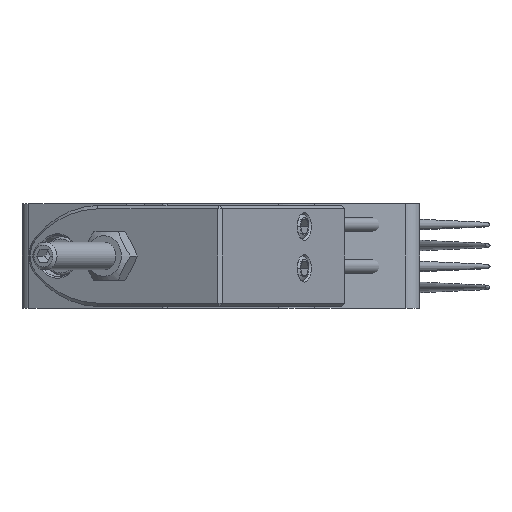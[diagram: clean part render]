
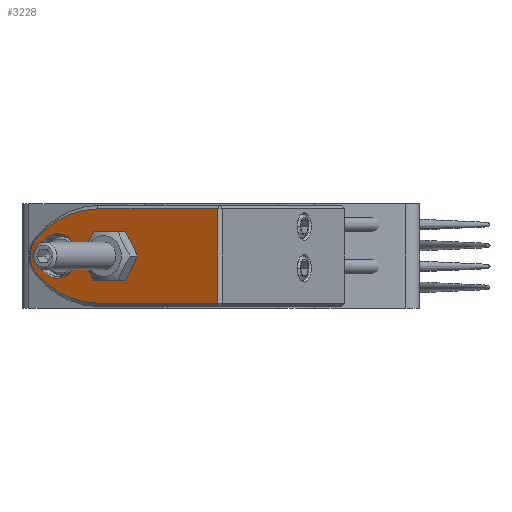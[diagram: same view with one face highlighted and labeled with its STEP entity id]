
A CAD part, left-side view. The second image highlights one B-rep face of the part: STEP entity #3228.
In plain terms, the highlighted planar face has unit normal (-0.866, 0.5, 0) as drawn and (0, -1, 0) by its records, which use the part's own axes.
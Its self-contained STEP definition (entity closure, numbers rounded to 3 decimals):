
#282=LINE('',#5456,#519);
#289=LINE('',#5476,#526);
#310=LINE('',#5512,#547);
#519=VECTOR('',#4343,10.);
#526=VECTOR('',#4366,10.);
#547=VECTOR('',#4409,10.);
#684=FACE_BOUND('',#1056,.T.);
#685=FACE_BOUND('',#1057,.T.);
#835=FACE_OUTER_BOUND('',#1055,.T.);
#1055=EDGE_LOOP('',(#2589,#2590,#2591,#2592,#2593,#2594));
#1056=EDGE_LOOP('',(#2595));
#1057=EDGE_LOOP('',(#2596));
#1221=CIRCLE('',#3623,14.32);
#1222=CIRCLE('',#3625,3.5);
#1223=CIRCLE('',#3627,14.32);
#1226=CIRCLE('',#3648,3.2);
#1227=CIRCLE('',#3654,2.9);
#1437=VERTEX_POINT('',#5441);
#1439=VERTEX_POINT('',#5454);
#1440=VERTEX_POINT('',#5458);
#1441=VERTEX_POINT('',#5462);
#1442=VERTEX_POINT('',#5466);
#1444=VERTEX_POINT('',#5475);
#1451=VERTEX_POINT('',#5524);
#1452=VERTEX_POINT('',#5535);
#1805=EDGE_CURVE('',#1439,#1437,#282,.T.);
#1806=EDGE_CURVE('',#1437,#1440,#1221,.T.);
#1808=EDGE_CURVE('',#1440,#1441,#1222,.T.);
#1811=EDGE_CURVE('',#1441,#1442,#1223,.T.);
#1815=EDGE_CURVE('',#1442,#1444,#289,.T.);
#1836=EDGE_CURVE('',#1444,#1439,#310,.T.);
#1841=EDGE_CURVE('',#1451,#1451,#1226,.T.);
#1846=EDGE_CURVE('',#1452,#1452,#1227,.T.);
#2589=ORIENTED_EDGE('',*,*,#1836,.F.);
#2590=ORIENTED_EDGE('',*,*,#1815,.F.);
#2591=ORIENTED_EDGE('',*,*,#1811,.F.);
#2592=ORIENTED_EDGE('',*,*,#1808,.F.);
#2593=ORIENTED_EDGE('',*,*,#1806,.F.);
#2594=ORIENTED_EDGE('',*,*,#1805,.F.);
#2595=ORIENTED_EDGE('',*,*,#1841,.F.);
#2596=ORIENTED_EDGE('',*,*,#1846,.T.);
#2871=PLANE('',#3653);
#3228=ADVANCED_FACE('',(#835,#684,#685),#2871,.T.);
#3623=AXIS2_PLACEMENT_3D('',#5459,#4346,#4347);
#3625=AXIS2_PLACEMENT_3D('',#5463,#4351,#4352);
#3627=AXIS2_PLACEMENT_3D('',#5468,#4357,#4358);
#3648=AXIS2_PLACEMENT_3D('',#5525,#4426,#4427);
#3653=AXIS2_PLACEMENT_3D('',#5534,#4440,#4441);
#3654=AXIS2_PLACEMENT_3D('',#5536,#4442,#4443);
#4343=DIRECTION('',(-1.,0.,0.));
#4346=DIRECTION('center_axis',(0.,1.,0.));
#4347=DIRECTION('ref_axis',(-0.86,0.,-0.511));
#4351=DIRECTION('center_axis',(0.,1.,0.));
#4352=DIRECTION('ref_axis',(-0.715,0.,0.699));
#4357=DIRECTION('center_axis',(0.,1.,0.));
#4358=DIRECTION('ref_axis',(0.017,0.,1.));
#4366=DIRECTION('',(1.,0.,0.));
#4409=DIRECTION('',(0.,0.,-1.));
#4426=DIRECTION('center_axis',(0.,-1.,0.));
#4427=DIRECTION('ref_axis',(-1.,0.,0.));
#4440=DIRECTION('center_axis',(0.,-1.,0.));
#4441=DIRECTION('ref_axis',(0.,0.,-1.));
#4442=DIRECTION('center_axis',(0.,1.,0.));
#4443=DIRECTION('ref_axis',(-1.,0.,0.));
#5441=CARTESIAN_POINT('',(2.85,3.5,-6.75));
#5454=CARTESIAN_POINT('',(22.861,3.5,-6.75));
#5456=CARTESIAN_POINT('',(17.368,3.5,-6.75));
#5458=CARTESIAN_POINT('',(-7.131,3.5,-2.448));
#5459=CARTESIAN_POINT('Origin',(3.103,3.5,7.567));
#5462=CARTESIAN_POINT('',(-7.131,3.5,2.448));
#5463=CARTESIAN_POINT('Origin',(-4.63,3.5,0.));
#5466=CARTESIAN_POINT('',(2.85,3.5,6.75));
#5468=CARTESIAN_POINT('Origin',(3.103,3.5,-7.567));
#5475=CARTESIAN_POINT('',(22.861,3.5,6.75));
#5476=CARTESIAN_POINT('',(17.368,3.5,6.75));
#5512=CARTESIAN_POINT('',(22.861,3.5,0.));
#5524=CARTESIAN_POINT('',(-0.439,3.5,0.));
#5525=CARTESIAN_POINT('Origin',(-3.639,3.5,0.));
#5534=CARTESIAN_POINT('Origin',(23.361,3.5,0.));
#5535=CARTESIAN_POINT('',(8.761,3.5,0.));
#5536=CARTESIAN_POINT('Origin',(5.861,3.5,0.));
